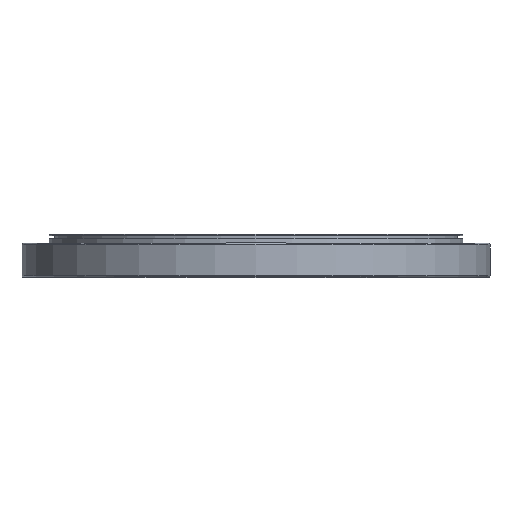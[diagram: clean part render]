
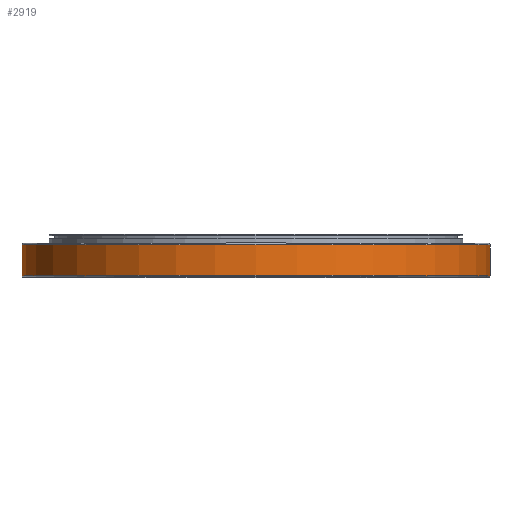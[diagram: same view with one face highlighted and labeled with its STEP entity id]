
A CAD part, top view. The second image highlights one B-rep face of the part: STEP entity #2919.
In plain terms, the highlighted cylindrical face has radius 307 mm (diameter 614 mm), a partial arc.
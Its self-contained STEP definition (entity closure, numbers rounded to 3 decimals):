
#1081=CARTESIAN_POINT('',(0.,42.5,0.));
#1082=DIRECTION('',(0.,-1.,0.));
#1083=DIRECTION('',(1.,0.,0.));
#1084=AXIS2_PLACEMENT_3D('',#1081,#1082,#1083);
#1086=CARTESIAN_POINT('',(0.,2.,0.));
#1087=DIRECTION('',(0.,-1.,0.));
#1088=DIRECTION('',(1.,0.,0.));
#1089=AXIS2_PLACEMENT_3D('',#1086,#1087,#1088);
#1106=DIRECTION('',(0.,-1.,0.));
#1107=VECTOR('',#1106,40.5);
#1108=CARTESIAN_POINT('',(-307.,42.5,0.));
#1109=LINE('',#1108,#1107);
#1115=DIRECTION('',(0.,-1.,0.));
#1116=VECTOR('',#1115,40.5);
#1117=CARTESIAN_POINT('',(307.,42.5,0.));
#1118=LINE('',#1117,#1116);
#1347=CARTESIAN_POINT('',(-307.,42.5,0.));
#1348=CARTESIAN_POINT('',(307.,42.5,0.));
#1349=VERTEX_POINT('',#1347);
#1350=VERTEX_POINT('',#1348);
#1359=CARTESIAN_POINT('',(-307.,2.,0.));
#1360=CARTESIAN_POINT('',(307.,2.,0.));
#1361=VERTEX_POINT('',#1359);
#1362=VERTEX_POINT('',#1360);
#2905=CARTESIAN_POINT('',(0.,0.,0.));
#2906=DIRECTION('',(0.,1.,0.));
#2907=DIRECTION('',(1.,0.,0.));
#2908=AXIS2_PLACEMENT_3D('',#2905,#2906,#2907);
#2909=CYLINDRICAL_SURFACE('',#2908,307.);
#2911=ORIENTED_EDGE('',*,*,#2910,.F.);
#2913=ORIENTED_EDGE('',*,*,#2912,.T.);
#2914=ORIENTED_EDGE('',*,*,#2899,.T.);
#2916=ORIENTED_EDGE('',*,*,#2915,.F.);
#2917=EDGE_LOOP('',(#2911,#2913,#2914,#2916));
#2918=FACE_OUTER_BOUND('',#2917,.F.);
#1085=CIRCLE('',#1084,307.);
#1090=CIRCLE('',#1089,307.);
#2899=EDGE_CURVE('',#1362,#1361,#1090,.T.);
#2910=EDGE_CURVE('',#1350,#1349,#1085,.T.);
#2912=EDGE_CURVE('',#1350,#1362,#1118,.T.);
#2915=EDGE_CURVE('',#1349,#1361,#1109,.T.);
#2919=ADVANCED_FACE('',(#2918),#2909,.T.);
